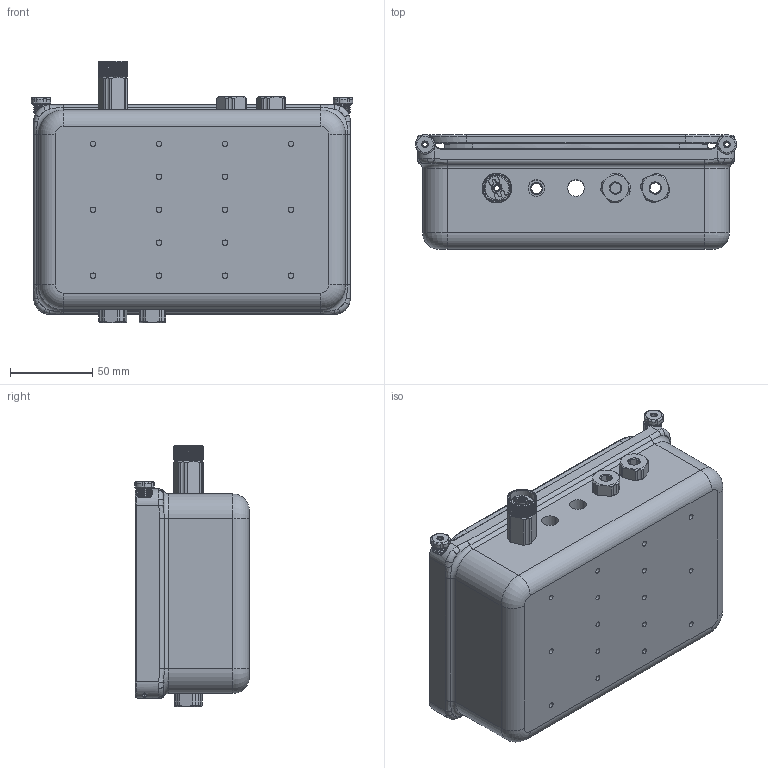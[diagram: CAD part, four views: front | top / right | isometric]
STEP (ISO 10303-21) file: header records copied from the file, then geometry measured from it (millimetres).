
FILE_DESCRIPTION (( 'STEP AP214' ), '1' );
FILE_NAME ('onboard-charger.STEP', '2025-12-04T23:53:37', ( '' ), ( '' ), 'SwSTEP 2.0', 'SolidWorks 2024', '' );
FILE_SCHEMA (( 'AUTOMOTIVE_DESIGN' ));
Length unit declared in the file: millimetre
Products named in the file (1): onboard-charger
Bounding box: 194.87 x 69.45 x 158.5 mm (x, y, z)
Surface area: 98172.2 mm2 (no closed solid volume)
Topology: 0 solids, 12 shells, 706 faces, 2087 edges, 1378 vertices
Faces by surface type: cylinder 299, plane 208, cone 106, bspline 47, torus 46
Entity records: 36333 total; most frequent: CARTESIAN_POINT 10841, ORIENTED_EDGE 3715, DIRECTION 3510, EDGE_CURVE 2083, AXIS2_PLACEMENT_3D 1422, VERTEX_POINT 1378, CIRCLE 762, EDGE_LOOP 751
